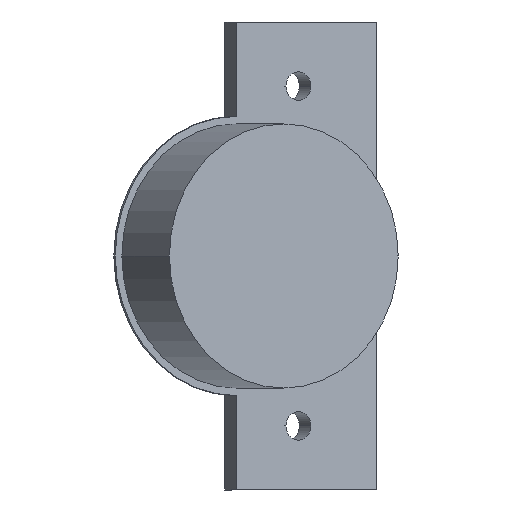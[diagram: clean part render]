
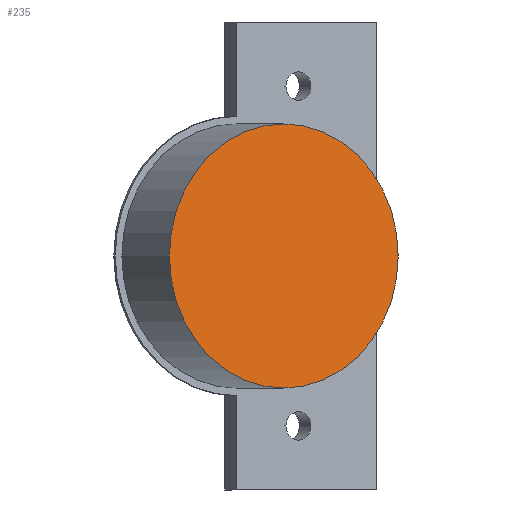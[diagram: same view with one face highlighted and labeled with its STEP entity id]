
A CAD part, front view. The second image highlights one B-rep face of the part: STEP entity #235.
In plain terms, the highlighted planar face has unit normal (0.5, -0.866, 0).
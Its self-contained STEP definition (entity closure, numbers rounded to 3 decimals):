
#20 = EDGE_LOOP ( 'NONE', ( #922, #718 ) ) ;
#128 = EDGE_CURVE ( 'NONE', #1334, #1406, #682, .T. ) ;
#235 = ADVANCED_FACE ( 'NONE', ( #1074 ), #476, .T. ) ;
#276 = DIRECTION ( 'NONE',  ( 0.866, 0.5, 0. ) ) ;
#379 = EDGE_CURVE ( 'NONE', #1406, #1334, #562, .T. ) ;
#476 = PLANE ( 'NONE',  #1017 ) ;
#562 = CIRCLE ( 'NONE', #1059, 17.5 ) ;
#601 = CARTESIAN_POINT ( 'NONE',  ( -3.105, -71.652, 0. ) ) ;
#682 = CIRCLE ( 'NONE', #1039, 17.5 ) ;
#718 = ORIENTED_EDGE ( 'NONE', *, *, #128, .T. ) ;
#769 = CARTESIAN_POINT ( 'NONE',  ( 12.05, -62.902, 0. ) ) ;
#922 = ORIENTED_EDGE ( 'NONE', *, *, #379, .T. ) ;
#974 = DIRECTION ( 'NONE',  ( 0.866, 0.5, 0. ) ) ;
#1000 = CARTESIAN_POINT ( 'NONE',  ( 12.05, -62.902, 0. ) ) ;
#1017 = AXIS2_PLACEMENT_3D ( 'NONE', #1106, #1312, #974 ) ;
#1039 = AXIS2_PLACEMENT_3D ( 'NONE', #1000, #1479, #276 ) ;
#1059 = AXIS2_PLACEMENT_3D ( 'NONE', #769, #1367, #1259 ) ;
#1074 = FACE_OUTER_BOUND ( 'NONE', #20, .T. ) ;
#1106 = CARTESIAN_POINT ( 'NONE',  ( 12.05, -62.902, 0. ) ) ;
#1224 = CARTESIAN_POINT ( 'NONE',  ( 27.205, -54.152, 0. ) ) ;
#1259 = DIRECTION ( 'NONE',  ( 0.866, 0.5, 0. ) ) ;
#1312 = DIRECTION ( 'NONE',  ( 0.5, -0.866, 0. ) ) ;
#1334 = VERTEX_POINT ( 'NONE', #1224 ) ;
#1367 = DIRECTION ( 'NONE',  ( 0.5, -0.866, 0. ) ) ;
#1406 = VERTEX_POINT ( 'NONE', #601 ) ;
#1479 = DIRECTION ( 'NONE',  ( 0.5, -0.866, 0. ) ) ;
